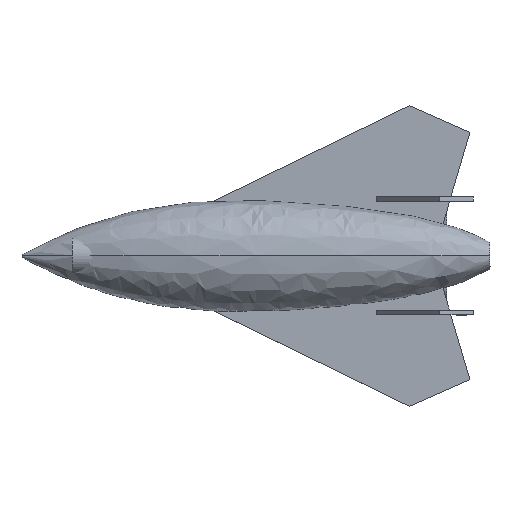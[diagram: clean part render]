
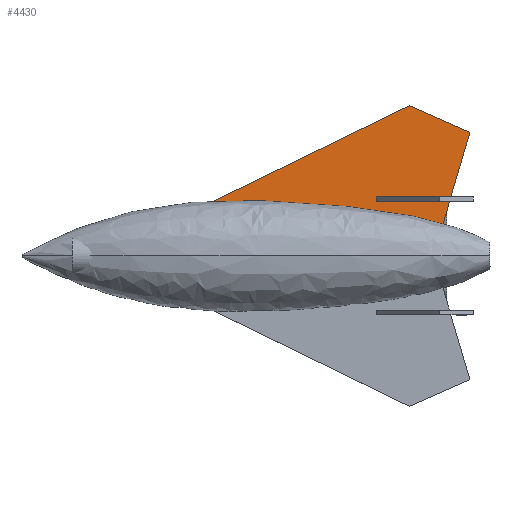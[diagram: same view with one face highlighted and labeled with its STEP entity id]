
A CAD part, top view. The second image highlights one B-rep face of the part: STEP entity #4430.
In plain terms, the highlighted planar face has unit normal (0, 0, 1).
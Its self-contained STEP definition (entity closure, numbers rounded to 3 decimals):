
#4113 = EDGE_CURVE('',#4114,#4116,#4118,.T.);
#4114 = VERTEX_POINT('',#4115);
#4115 = CARTESIAN_POINT('',(4100.,850.,-405.));
#4116 = VERTEX_POINT('',#4117);
#4117 = CARTESIAN_POINT('',(11600.,4500.,-405.));
#4118 = SURFACE_CURVE('',#4119,(#4123,#4135),.PCURVE_S1.);
#4119 = LINE('',#4120,#4121);
#4120 = CARTESIAN_POINT('',(4100.,850.,-405.));
#4121 = VECTOR('',#4122,1.);
#4122 = DIRECTION('',(0.899,0.438,0.));
#4123 = PCURVE('',#4124,#4129);
#4124 = PLANE('',#4125);
#4125 = AXIS2_PLACEMENT_3D('',#4126,#4127,#4128);
#4126 = CARTESIAN_POINT('',(4100.,850.,-500.));
#4127 = DIRECTION('',(-0.438,0.899,0.));
#4128 = DIRECTION('',(0.899,0.438,0.));
#4129 = DEFINITIONAL_REPRESENTATION('',(#4130),#4134);
#4130 = LINE('',#4131,#4132);
#4131 = CARTESIAN_POINT('',(0.,-95.));
#4132 = VECTOR('',#4133,1.);
#4133 = DIRECTION('',(1.,0.));
#4134 = ( GEOMETRIC_REPRESENTATION_CONTEXT(2) 
PARAMETRIC_REPRESENTATION_CONTEXT() REPRESENTATION_CONTEXT('2D SPACE',''
  ) );
#4135 = PCURVE('',#4136,#4141);
#4136 = PLANE('',#4137);
#4137 = AXIS2_PLACEMENT_3D('',#4138,#4139,#4140);
#4138 = CARTESIAN_POINT('',(9181.857,1991.789,-405.)
  );
#4139 = DIRECTION('',(-0.,-0.,-1.));
#4140 = DIRECTION('',(-1.,0.,0.));
#4141 = DEFINITIONAL_REPRESENTATION('',(#4142),#4146);
#4142 = LINE('',#4143,#4144);
#4143 = CARTESIAN_POINT('',(5081.857,-1141.789));
#4144 = VECTOR('',#4145,1.);
#4145 = DIRECTION('',(-0.899,0.438));
#4146 = ( GEOMETRIC_REPRESENTATION_CONTEXT(2) 
PARAMETRIC_REPRESENTATION_CONTEXT() REPRESENTATION_CONTEXT('2D SPACE',''
  ) );
#4164 = PLANE('',#4165);
#4165 = AXIS2_PLACEMENT_3D('',#4166,#4167,#4168);
#4166 = CARTESIAN_POINT('',(11600.,4500.,-500.));
#4167 = DIRECTION('',(0.406,0.914,-0.));
#4168 = DIRECTION('',(0.914,-0.406,0.));
#4218 = PLANE('',#4219);
#4219 = AXIS2_PLACEMENT_3D('',#4220,#4221,#4222);
#4220 = CARTESIAN_POINT('',(12500.,650.,-500.));
#4221 = DIRECTION('',(-0.024,-1.,0.));
#4222 = DIRECTION('',(-1.,0.024,0.));
#4233 = EDGE_CURVE('',#4234,#4114,#4236,.T.);
#4234 = VERTEX_POINT('',#4235);
#4235 = CARTESIAN_POINT('',(12500.,650.,-405.));
#4236 = SURFACE_CURVE('',#4237,(#4241,#4248),.PCURVE_S1.);
#4237 = LINE('',#4238,#4239);
#4238 = CARTESIAN_POINT('',(12500.,650.,-405.));
#4239 = VECTOR('',#4240,1.);
#4240 = DIRECTION('',(-1.,0.024,0.));
#4241 = PCURVE('',#4218,#4242);
#4242 = DEFINITIONAL_REPRESENTATION('',(#4243),#4247);
#4243 = LINE('',#4244,#4245);
#4244 = CARTESIAN_POINT('',(0.,-95.));
#4245 = VECTOR('',#4246,1.);
#4246 = DIRECTION('',(1.,0.));
#4247 = ( GEOMETRIC_REPRESENTATION_CONTEXT(2) 
PARAMETRIC_REPRESENTATION_CONTEXT() REPRESENTATION_CONTEXT('2D SPACE',''
  ) );
#4248 = PCURVE('',#4136,#4249);
#4249 = DEFINITIONAL_REPRESENTATION('',(#4250),#4254);
#4250 = LINE('',#4251,#4252);
#4251 = CARTESIAN_POINT('',(-3318.143,-1341.789));
#4252 = VECTOR('',#4253,1.);
#4253 = DIRECTION('',(1.,0.024));
#4254 = ( GEOMETRIC_REPRESENTATION_CONTEXT(2) 
PARAMETRIC_REPRESENTATION_CONTEXT() REPRESENTATION_CONTEXT('2D SPACE',''
  ) );
#4294 = PLANE('',#4295);
#4295 = AXIS2_PLACEMENT_3D('',#4296,#4297,#4298);
#4296 = CARTESIAN_POINT('',(13400.,3700.,-500.));
#4297 = DIRECTION('',(0.959,-0.283,0.));
#4298 = DIRECTION('',(-0.283,-0.959,0.));
#4310 = VERTEX_POINT('',#4311);
#4311 = CARTESIAN_POINT('',(13400.,3700.,-405.));
#4334 = EDGE_CURVE('',#4310,#4234,#4335,.T.);
#4335 = SURFACE_CURVE('',#4336,(#4340,#4347),.PCURVE_S1.);
#4336 = LINE('',#4337,#4338);
#4337 = CARTESIAN_POINT('',(13400.,3700.,-405.));
#4338 = VECTOR('',#4339,1.);
#4339 = DIRECTION('',(-0.283,-0.959,0.));
#4340 = PCURVE('',#4294,#4341);
#4341 = DEFINITIONAL_REPRESENTATION('',(#4342),#4346);
#4342 = LINE('',#4343,#4344);
#4343 = CARTESIAN_POINT('',(0.,-95.));
#4344 = VECTOR('',#4345,1.);
#4345 = DIRECTION('',(1.,0.));
#4346 = ( GEOMETRIC_REPRESENTATION_CONTEXT(2) 
PARAMETRIC_REPRESENTATION_CONTEXT() REPRESENTATION_CONTEXT('2D SPACE',''
  ) );
#4347 = PCURVE('',#4136,#4348);
#4348 = DEFINITIONAL_REPRESENTATION('',(#4349),#4353);
#4349 = LINE('',#4350,#4351);
#4350 = CARTESIAN_POINT('',(-4218.143,1708.211));
#4351 = VECTOR('',#4352,1.);
#4352 = DIRECTION('',(0.283,-0.959));
#4353 = ( GEOMETRIC_REPRESENTATION_CONTEXT(2) 
PARAMETRIC_REPRESENTATION_CONTEXT() REPRESENTATION_CONTEXT('2D SPACE',''
  ) );
#4408 = EDGE_CURVE('',#4116,#4310,#4409,.T.);
#4409 = SURFACE_CURVE('',#4410,(#4414,#4421),.PCURVE_S1.);
#4410 = LINE('',#4411,#4412);
#4411 = CARTESIAN_POINT('',(11600.,4500.,-405.));
#4412 = VECTOR('',#4413,1.);
#4413 = DIRECTION('',(0.914,-0.406,0.));
#4414 = PCURVE('',#4164,#4415);
#4415 = DEFINITIONAL_REPRESENTATION('',(#4416),#4420);
#4416 = LINE('',#4417,#4418);
#4417 = CARTESIAN_POINT('',(0.,-95.));
#4418 = VECTOR('',#4419,1.);
#4419 = DIRECTION('',(1.,0.));
#4420 = ( GEOMETRIC_REPRESENTATION_CONTEXT(2) 
PARAMETRIC_REPRESENTATION_CONTEXT() REPRESENTATION_CONTEXT('2D SPACE',''
  ) );
#4421 = PCURVE('',#4136,#4422);
#4422 = DEFINITIONAL_REPRESENTATION('',(#4423),#4427);
#4423 = LINE('',#4424,#4425);
#4424 = CARTESIAN_POINT('',(-2418.143,2508.211));
#4425 = VECTOR('',#4426,1.);
#4426 = DIRECTION('',(-0.914,-0.406));
#4427 = ( GEOMETRIC_REPRESENTATION_CONTEXT(2) 
PARAMETRIC_REPRESENTATION_CONTEXT() REPRESENTATION_CONTEXT('2D SPACE',''
  ) );
#4430 = ADVANCED_FACE('',(#4431),#4136,.F.);
#4431 = FACE_BOUND('',#4432,.F.);
#4432 = EDGE_LOOP('',(#4433,#4434,#4435,#4436));
#4433 = ORIENTED_EDGE('',*,*,#4113,.T.);
#4434 = ORIENTED_EDGE('',*,*,#4408,.T.);
#4435 = ORIENTED_EDGE('',*,*,#4334,.T.);
#4436 = ORIENTED_EDGE('',*,*,#4233,.T.);
